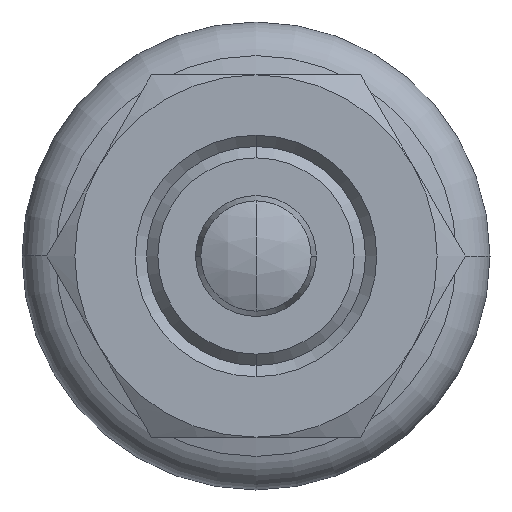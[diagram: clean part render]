
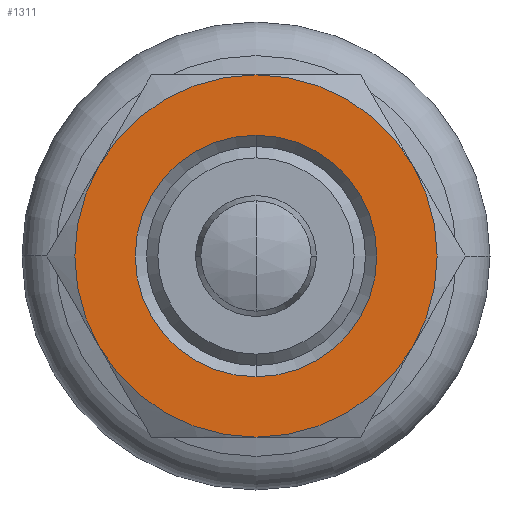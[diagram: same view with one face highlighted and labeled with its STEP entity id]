
A CAD part, front view. The second image highlights one B-rep face of the part: STEP entity #1311.
In plain terms, the highlighted planar face has unit normal (0, -1, 0).
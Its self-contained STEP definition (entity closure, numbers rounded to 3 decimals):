
#74 = ORIENTED_EDGE ( 'NONE', *, *, #1013, .F. ) ;
#99 = CARTESIAN_POINT ( 'NONE',  ( 0., 0., 0. ) ) ;
#118 = DIRECTION ( 'NONE',  ( 0., -1., 0. ) ) ;
#199 = VERTEX_POINT ( 'NONE', #1884 ) ;
#211 = AXIS2_PLACEMENT_3D ( 'NONE', #1222, #3291, #963 ) ;
#251 = EDGE_CURVE ( 'NONE', #952, #518, #2193, .T. ) ;
#333 = DIRECTION ( 'NONE',  ( 0., 0., -1. ) ) ;
#361 = CIRCLE ( 'NONE', #211, 12. ) ;
#433 = AXIS2_PLACEMENT_3D ( 'NONE', #2086, #513, #1980 ) ;
#467 = CIRCLE ( 'NONE', #812, 12. ) ;
#513 = DIRECTION ( 'NONE',  ( 0., -1., 0. ) ) ;
#518 = VERTEX_POINT ( 'NONE', #1621 ) ;
#545 = FACE_BOUND ( 'NONE', #1920, .T. ) ;
#764 = CARTESIAN_POINT ( 'NONE',  ( 0., 0., -12. ) ) ;
#806 = DIRECTION ( 'NONE',  ( 0., 0., -1. ) ) ;
#812 = AXIS2_PLACEMENT_3D ( 'NONE', #1938, #118, #1694 ) ;
#847 = CARTESIAN_POINT ( 'NONE',  ( -10.392, 0., -6. ) ) ;
#850 = EDGE_CURVE ( 'NONE', #518, #1454, #1926, .T. ) ;
#895 = EDGE_CURVE ( 'NONE', #2459, #1110, #2309, .T. ) ;
#930 = CARTESIAN_POINT ( 'NONE',  ( 0., 0., 12. ) ) ;
#931 = DIRECTION ( 'NONE',  ( 0., 0., -1. ) ) ;
#936 = ORIENTED_EDGE ( 'NONE', *, *, #1363, .T. ) ;
#950 = DIRECTION ( 'NONE',  ( 0., 0., -1. ) ) ;
#952 = VERTEX_POINT ( 'NONE', #3195 ) ;
#963 = DIRECTION ( 'NONE',  ( 0., 0., -1. ) ) ;
#1013 = EDGE_CURVE ( 'NONE', #199, #3129, #1140, .T. ) ;
#1110 = VERTEX_POINT ( 'NONE', #847 ) ;
#1137 = DIRECTION ( 'NONE',  ( 0., -1., 0. ) ) ;
#1140 = CIRCLE ( 'NONE', #1534, 8. ) ;
#1222 = CARTESIAN_POINT ( 'NONE',  ( 0., 0., 0. ) ) ;
#1311 = ADVANCED_FACE ( 'NONE', ( #2126, #545 ), #2623, .T. ) ;
#1363 = EDGE_CURVE ( 'NONE', #1110, #3202, #467, .T. ) ;
#1389 = ORIENTED_EDGE ( 'NONE', *, *, #2772, .T. ) ;
#1402 = CARTESIAN_POINT ( 'NONE',  ( 0., 0., 0. ) ) ;
#1427 = CIRCLE ( 'NONE', #2842, 8. ) ;
#1433 = EDGE_CURVE ( 'NONE', #3202, #952, #2950, .T. ) ;
#1454 = VERTEX_POINT ( 'NONE', #930 ) ;
#1476 = CARTESIAN_POINT ( 'NONE',  ( 0., 0., -8. ) ) ;
#1534 = AXIS2_PLACEMENT_3D ( 'NONE', #1953, #3266, #931 ) ;
#1569 = DIRECTION ( 'NONE',  ( 0., -1., 0. ) ) ;
#1621 = CARTESIAN_POINT ( 'NONE',  ( 10.392, 0., 6. ) ) ;
#1627 = DIRECTION ( 'NONE',  ( 0., -1., 0. ) ) ;
#1694 = DIRECTION ( 'NONE',  ( 0., 0., -1. ) ) ;
#1713 = CARTESIAN_POINT ( 'NONE',  ( 0., 0., 0. ) ) ;
#1753 = ORIENTED_EDGE ( 'NONE', *, *, #2068, .F. ) ;
#1834 = ORIENTED_EDGE ( 'NONE', *, *, #895, .T. ) ;
#1839 = CARTESIAN_POINT ( 'NONE',  ( 8., 0., 0. ) ) ;
#1884 = CARTESIAN_POINT ( 'NONE',  ( 0., 0., 8. ) ) ;
#1920 = EDGE_LOOP ( 'NONE', ( #1753, #74 ) ) ;
#1926 = CIRCLE ( 'NONE', #433, 12. ) ;
#1938 = CARTESIAN_POINT ( 'NONE',  ( 0., 0., 0. ) ) ;
#1953 = CARTESIAN_POINT ( 'NONE',  ( 0., 0., 0. ) ) ;
#1980 = DIRECTION ( 'NONE',  ( 0., 0., -1. ) ) ;
#1981 = AXIS2_PLACEMENT_3D ( 'NONE', #1402, #1627, #333 ) ;
#2068 = EDGE_CURVE ( 'NONE', #3129, #199, #1427, .T. ) ;
#2086 = CARTESIAN_POINT ( 'NONE',  ( 0., 0., 0. ) ) ;
#2109 = CARTESIAN_POINT ( 'NONE',  ( -10.392, 0., 6. ) ) ;
#2126 = FACE_OUTER_BOUND ( 'NONE', #3075, .T. ) ;
#2193 = CIRCLE ( 'NONE', #2375, 12. ) ;
#2265 = DIRECTION ( 'NONE',  ( 0., -1., 0. ) ) ;
#2298 = ORIENTED_EDGE ( 'NONE', *, *, #850, .T. ) ;
#2309 = CIRCLE ( 'NONE', #1981, 12. ) ;
#2375 = AXIS2_PLACEMENT_3D ( 'NONE', #1713, #3209, #2762 ) ;
#2459 = VERTEX_POINT ( 'NONE', #2109 ) ;
#2623 = PLANE ( 'NONE',  #2895 ) ;
#2712 = ORIENTED_EDGE ( 'NONE', *, *, #251, .T. ) ;
#2732 = AXIS2_PLACEMENT_3D ( 'NONE', #99, #1137, #2751 ) ;
#2751 = DIRECTION ( 'NONE',  ( 0., 0., -1. ) ) ;
#2762 = DIRECTION ( 'NONE',  ( 0., 0., -1. ) ) ;
#2772 = EDGE_CURVE ( 'NONE', #1454, #2459, #361, .T. ) ;
#2842 = AXIS2_PLACEMENT_3D ( 'NONE', #3003, #2265, #950 ) ;
#2895 = AXIS2_PLACEMENT_3D ( 'NONE', #1839, #1569, #806 ) ;
#2950 = CIRCLE ( 'NONE', #2732, 12. ) ;
#3003 = CARTESIAN_POINT ( 'NONE',  ( 0., 0., 0. ) ) ;
#3075 = EDGE_LOOP ( 'NONE', ( #3088, #2712, #2298, #1389, #1834, #936 ) ) ;
#3088 = ORIENTED_EDGE ( 'NONE', *, *, #1433, .T. ) ;
#3129 = VERTEX_POINT ( 'NONE', #1476 ) ;
#3195 = CARTESIAN_POINT ( 'NONE',  ( 10.392, 0., -6. ) ) ;
#3202 = VERTEX_POINT ( 'NONE', #764 ) ;
#3209 = DIRECTION ( 'NONE',  ( 0., -1., 0. ) ) ;
#3266 = DIRECTION ( 'NONE',  ( 0., -1., 0. ) ) ;
#3291 = DIRECTION ( 'NONE',  ( 0., -1., 0. ) ) ;
